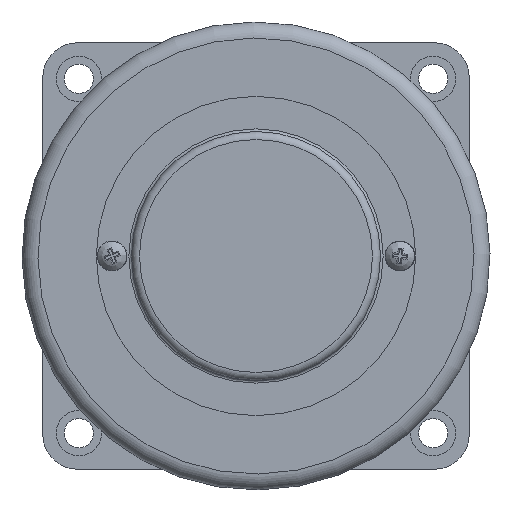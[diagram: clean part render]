
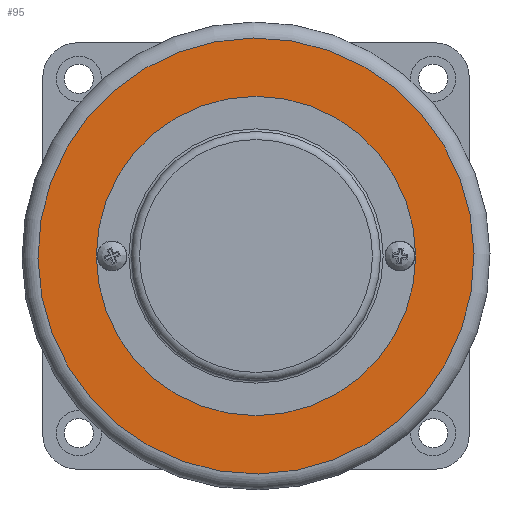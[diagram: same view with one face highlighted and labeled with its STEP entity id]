
A CAD part, left-side view. The second image highlights one B-rep face of the part: STEP entity #95.
In plain terms, the highlighted planar face has unit normal (-1, 0, 0).
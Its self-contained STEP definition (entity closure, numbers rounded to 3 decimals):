
#68=CARTESIAN_POINT('',(-38.5,0.,0.));
#69=DIRECTION('',(-1.0,0.0,0.0));
#70=DIRECTION('',(0.0,-0.861,0.509));
#71=AXIS2_PLACEMENT_3D('',#68,#69,#70);
#72=PLANE('',#71);
#73=CARTESIAN_POINT('',(-38.5,35.199,-20.828));
#74=VERTEX_POINT('',#73);
#75=CARTESIAN_POINT('',(-38.5,0.,0.));
#76=DIRECTION('',(1.0,0.,0.));
#77=DIRECTION('',(0.,-0.861,0.509));
#78=AXIS2_PLACEMENT_3D('',#75,#76,#77);
#79=CIRCLE('',#78,40.9);
#80=EDGE_CURVE('',#74,#74,#79,.T.);
#81=ORIENTED_EDGE('',*,*,#80,.F.);
#82=EDGE_LOOP('',(#81));
#83=FACE_OUTER_BOUND('',#82,.T.);
#84=CARTESIAN_POINT('',(-38.5,-29.95,0.));
#85=VERTEX_POINT('',#84);
#86=CARTESIAN_POINT('',(-38.5,0.,0.));
#87=DIRECTION('',(-1.0,0.0,0.0));
#88=DIRECTION('',(0.0,1.0,0.0));
#89=AXIS2_PLACEMENT_3D('',#86,#87,#88);
#90=CIRCLE('',#89,29.95);
#91=EDGE_CURVE('',#85,#85,#90,.T.);
#92=ORIENTED_EDGE('',*,*,#91,.F.);
#93=EDGE_LOOP('',(#92));
#94=FACE_BOUND('',#93,.T.);
#95=ADVANCED_FACE('',(#83,#94),#72,.T.);
